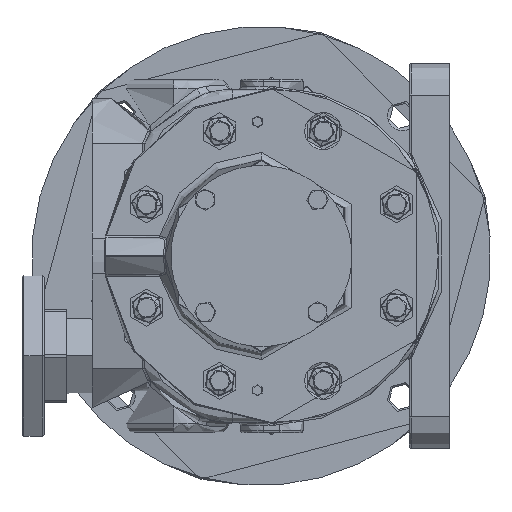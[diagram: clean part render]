
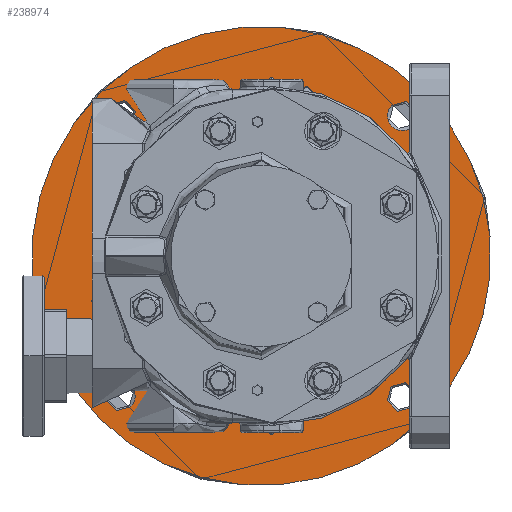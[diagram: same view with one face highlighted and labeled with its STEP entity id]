
A CAD part, left-side view. The second image highlights one B-rep face of the part: STEP entity #238974.
In plain terms, the highlighted planar face has unit normal (-1, 0, 0).
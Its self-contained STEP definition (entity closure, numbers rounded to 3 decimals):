
#3907 = CIRCLE ( 'NONE', #290518, 8. ) ;
#4275 = VERTEX_POINT ( 'NONE', #317305 ) ;
#6786 = DIRECTION ( 'NONE',  ( 0., 0.705, 0.709 ) ) ;
#9591 = AXIS2_PLACEMENT_3D ( 'NONE', #131633, #345773, #418635 ) ;
#24810 = DIRECTION ( 'NONE',  ( 0., 0.705, 0.709 ) ) ;
#29243 = AXIS2_PLACEMENT_3D ( 'NONE', #348198, #95182, #450526 ) ;
#30906 = ORIENTED_EDGE ( 'NONE', *, *, #443695, .F. ) ;
#35218 = DIRECTION ( 'NONE',  ( -1., 0., 0. ) ) ;
#38396 = VERTEX_POINT ( 'NONE', #399448 ) ;
#43391 = FACE_BOUND ( 'NONE', #163516, .T. ) ;
#47781 = EDGE_CURVE ( 'NONE', #250649, #368803, #143085, .T. ) ;
#52168 = DIRECTION ( 'NONE',  ( 0., 0.705, 0.709 ) ) ;
#54310 = CIRCLE ( 'NONE', #338137, 8. ) ;
#67580 = EDGE_CURVE ( 'NONE', #185855, #401865, #159679, .T. ) ;
#75830 = EDGE_CURVE ( 'NONE', #154530, #4275, #232635, .T. ) ;
#78755 = DIRECTION ( 'NONE',  ( -1., 0., 0. ) ) ;
#81396 = CARTESIAN_POINT ( 'NONE',  ( 139.305, 81.718, -75.819 ) ) ;
#83360 = DIRECTION ( 'NONE',  ( 0., 0.705, 0.709 ) ) ;
#94120 = EDGE_CURVE ( 'NONE', #112395, #119559, #403226, .T. ) ;
#95182 = DIRECTION ( 'NONE',  ( 1., 0., 0. ) ) ;
#100271 = EDGE_CURVE ( 'NONE', #4275, #154530, #253690, .T. ) ;
#101360 = CIRCLE ( 'NONE', #148568, 95. ) ;
#112395 = VERTEX_POINT ( 'NONE', #259480 ) ;
#113791 = EDGE_CURVE ( 'NONE', #368803, #250649, #54310, .T. ) ;
#114408 = VERTEX_POINT ( 'NONE', #318517 ) ;
#118530 = AXIS2_PLACEMENT_3D ( 'NONE', #368352, #227267, #400982 ) ;
#119559 = VERTEX_POINT ( 'NONE', #401416 ) ;
#123838 = CARTESIAN_POINT ( 'NONE',  ( 139.305, -70.309, -76.208 ) ) ;
#131633 = CARTESIAN_POINT ( 'NONE',  ( 139.305, 5.51, 0. ) ) ;
#133045 = ORIENTED_EDGE ( 'NONE', *, *, #75830, .T. ) ;
#135009 = ORIENTED_EDGE ( 'NONE', *, *, #113791, .T. ) ;
#143085 = CIRCLE ( 'NONE', #224063, 8. ) ;
#143548 = DIRECTION ( 'NONE',  ( 1., 0., 0. ) ) ;
#146386 = AXIS2_PLACEMENT_3D ( 'NONE', #206926, #202265, #454951 ) ;
#147158 = DIRECTION ( 'NONE',  ( 0., 0.705, 0.709 ) ) ;
#148568 = AXIS2_PLACEMENT_3D ( 'NONE', #359840, #35218, #147158 ) ;
#154199 = CIRCLE ( 'NONE', #227826, 124. ) ;
#154530 = VERTEX_POINT ( 'NONE', #212057 ) ;
#159679 = CIRCLE ( 'NONE', #9591, 95. ) ;
#161737 = CARTESIAN_POINT ( 'NONE',  ( 139.305, 81.718, -75.819 ) ) ;
#163516 = EDGE_LOOP ( 'NONE', ( #451517, #448367 ) ) ;
#164733 = CIRCLE ( 'NONE', #29243, 8. ) ;
#176830 = FACE_BOUND ( 'NONE', #239954, .T. ) ;
#179613 = VERTEX_POINT ( 'NONE', #355195 ) ;
#182686 = FACE_BOUND ( 'NONE', #399431, .T. ) ;
#185592 = DIRECTION ( 'NONE',  ( 1., 0., 0. ) ) ;
#185770 = ORIENTED_EDGE ( 'NONE', *, *, #67580, .F. ) ;
#185855 = VERTEX_POINT ( 'NONE', #219322 ) ;
#189507 = EDGE_LOOP ( 'NONE', ( #321183, #232971 ) ) ;
#190656 = EDGE_LOOP ( 'NONE', ( #30906, #185770 ) ) ;
#196931 = DIRECTION ( 'NONE',  ( 0., 0.705, 0.709 ) ) ;
#202265 = DIRECTION ( 'NONE',  ( 1., 0., 0. ) ) ;
#206926 = CARTESIAN_POINT ( 'NONE',  ( 139.305, 81.329, 76.208 ) ) ;
#210383 = FACE_OUTER_BOUND ( 'NONE', #189507, .T. ) ;
#212057 = CARTESIAN_POINT ( 'NONE',  ( 139.305, 86.972, 81.879 ) ) ;
#219322 = CARTESIAN_POINT ( 'NONE',  ( 139.305, -61.493, -67.347 ) ) ;
#224063 = AXIS2_PLACEMENT_3D ( 'NONE', #123838, #300761, #52168 ) ;
#225771 = DIRECTION ( 'NONE',  ( -1., 0., 0. ) ) ;
#227267 = DIRECTION ( 'NONE',  ( 1., 0., 0. ) ) ;
#227826 = AXIS2_PLACEMENT_3D ( 'NONE', #299166, #337946, #83360 ) ;
#228738 = AXIS2_PLACEMENT_3D ( 'NONE', #81396, #185592, #6786 ) ;
#232635 = CIRCLE ( 'NONE', #146386, 8. ) ;
#232971 = ORIENTED_EDGE ( 'NONE', *, *, #348499, .T. ) ;
#238974 = ADVANCED_FACE ( 'NONE', ( #182686, #43391, #365686, #176830, #210383, #271226 ), #287826, .T. ) ;
#239954 = EDGE_LOOP ( 'NONE', ( #277008, #286697 ) ) ;
#239983 = EDGE_CURVE ( 'NONE', #373808, #38396, #154199, .T. ) ;
#243780 = CARTESIAN_POINT ( 'NONE',  ( 139.305, -70.309, -76.208 ) ) ;
#246836 = DIRECTION ( 'NONE',  ( 1., 0., 0. ) ) ;
#250649 = VERTEX_POINT ( 'NONE', #367513 ) ;
#253435 = CARTESIAN_POINT ( 'NONE',  ( 139.305, 72.513, 67.347 ) ) ;
#253690 = CIRCLE ( 'NONE', #394650, 8. ) ;
#259480 = CARTESIAN_POINT ( 'NONE',  ( 139.305, -76.34, 70.148 ) ) ;
#271226 = FACE_BOUND ( 'NONE', #190656, .T. ) ;
#277008 = ORIENTED_EDGE ( 'NONE', *, *, #285183, .T. ) ;
#278726 = DIRECTION ( 'NONE',  ( 0., 0.705, 0.709 ) ) ;
#283336 = EDGE_CURVE ( 'NONE', #179613, #114408, #3907, .T. ) ;
#285183 = EDGE_CURVE ( 'NONE', #114408, #179613, #318932, .T. ) ;
#286697 = ORIENTED_EDGE ( 'NONE', *, *, #283336, .T. ) ;
#287826 = PLANE ( 'NONE',  #388120 ) ;
#290518 = AXIS2_PLACEMENT_3D ( 'NONE', #161737, #451770, #24810 ) ;
#295479 = DIRECTION ( 'NONE',  ( 0., 0.705, 0.709 ) ) ;
#299166 = CARTESIAN_POINT ( 'NONE',  ( 139.305, 5.51, 0. ) ) ;
#300761 = DIRECTION ( 'NONE',  ( 1., 0., 0. ) ) ;
#305218 = ORIENTED_EDGE ( 'NONE', *, *, #47781, .T. ) ;
#305716 = ORIENTED_EDGE ( 'NONE', *, *, #100271, .T. ) ;
#317305 = CARTESIAN_POINT ( 'NONE',  ( 139.305, 75.687, 70.537 ) ) ;
#318517 = CARTESIAN_POINT ( 'NONE',  ( 139.305, 87.36, -70.148 ) ) ;
#318932 = CIRCLE ( 'NONE', #228738, 8. ) ;
#321183 = ORIENTED_EDGE ( 'NONE', *, *, #239983, .T. ) ;
#328796 = CARTESIAN_POINT ( 'NONE',  ( 139.305, 5.51, 0. ) ) ;
#337946 = DIRECTION ( 'NONE',  ( -1., 0., 0. ) ) ;
#338137 = AXIS2_PLACEMENT_3D ( 'NONE', #243780, #246836, #383430 ) ;
#345773 = DIRECTION ( 'NONE',  ( -1., 0., 0. ) ) ;
#348198 = CARTESIAN_POINT ( 'NONE',  ( 139.305, -70.698, 75.819 ) ) ;
#348499 = EDGE_CURVE ( 'NONE', #38396, #373808, #367571, .T. ) ;
#355195 = CARTESIAN_POINT ( 'NONE',  ( 139.305, 76.076, -81.491 ) ) ;
#359840 = CARTESIAN_POINT ( 'NONE',  ( 139.305, 5.51, 0. ) ) ;
#361202 = CARTESIAN_POINT ( 'NONE',  ( 139.305, -81.947, -87.905 ) ) ;
#365686 = FACE_BOUND ( 'NONE', #402886, .T. ) ;
#367513 = CARTESIAN_POINT ( 'NONE',  ( 139.305, -75.952, -81.879 ) ) ;
#367571 = CIRCLE ( 'NONE', #430504, 124. ) ;
#368352 = CARTESIAN_POINT ( 'NONE',  ( 139.305, -70.698, 75.819 ) ) ;
#368803 = VERTEX_POINT ( 'NONE', #423689 ) ;
#373808 = VERTEX_POINT ( 'NONE', #361202 ) ;
#383430 = DIRECTION ( 'NONE',  ( 0., 0.705, 0.709 ) ) ;
#387381 = CARTESIAN_POINT ( 'NONE',  ( 139.305, 81.329, 76.208 ) ) ;
#388120 = AXIS2_PLACEMENT_3D ( 'NONE', #401004, #225771, #295479 ) ;
#394650 = AXIS2_PLACEMENT_3D ( 'NONE', #387381, #143548, #278726 ) ;
#399431 = EDGE_LOOP ( 'NONE', ( #133045, #305716 ) ) ;
#399448 = CARTESIAN_POINT ( 'NONE',  ( 139.305, 92.967, 87.905 ) ) ;
#400982 = DIRECTION ( 'NONE',  ( 0., 0.705, 0.709 ) ) ;
#401004 = CARTESIAN_POINT ( 'NONE',  ( 139.305, 94.124, -88.162 ) ) ;
#401416 = CARTESIAN_POINT ( 'NONE',  ( 139.305, -65.056, 81.491 ) ) ;
#401605 = EDGE_CURVE ( 'NONE', #119559, #112395, #164733, .T. ) ;
#401865 = VERTEX_POINT ( 'NONE', #253435 ) ;
#402886 = EDGE_LOOP ( 'NONE', ( #135009, #305218 ) ) ;
#403226 = CIRCLE ( 'NONE', #118530, 8. ) ;
#418635 = DIRECTION ( 'NONE',  ( 0., 0.705, 0.709 ) ) ;
#423689 = CARTESIAN_POINT ( 'NONE',  ( 139.305, -64.667, -70.537 ) ) ;
#430504 = AXIS2_PLACEMENT_3D ( 'NONE', #328796, #78755, #196931 ) ;
#443695 = EDGE_CURVE ( 'NONE', #401865, #185855, #101360, .T. ) ;
#448367 = ORIENTED_EDGE ( 'NONE', *, *, #94120, .T. ) ;
#450526 = DIRECTION ( 'NONE',  ( 0., 0.705, 0.709 ) ) ;
#451517 = ORIENTED_EDGE ( 'NONE', *, *, #401605, .T. ) ;
#451770 = DIRECTION ( 'NONE',  ( 1., 0., 0. ) ) ;
#454951 = DIRECTION ( 'NONE',  ( 0., 0.705, 0.709 ) ) ;
